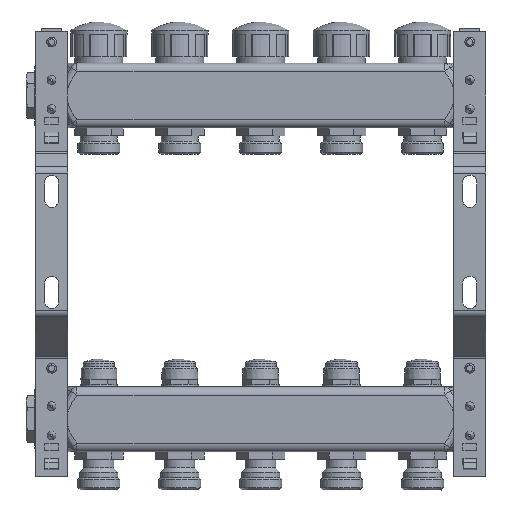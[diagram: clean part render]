
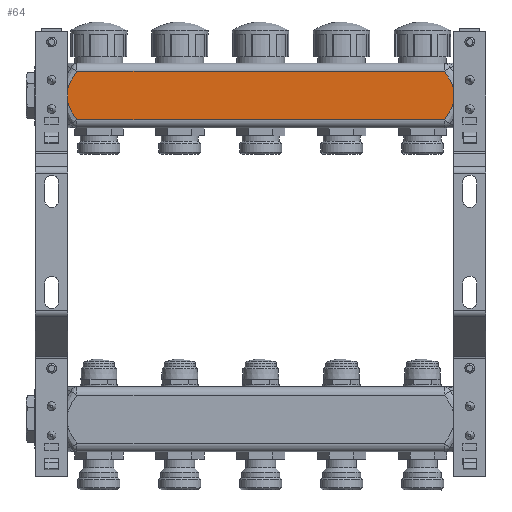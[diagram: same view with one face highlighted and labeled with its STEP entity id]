
A CAD part, front view. The second image highlights one B-rep face of the part: STEP entity #64.
In plain terms, the highlighted planar face has unit normal (0, -1, 0).
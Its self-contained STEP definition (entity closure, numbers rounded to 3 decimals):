
#64=ADVANCED_FACE('',(#1389),#1391,.T.);
#1389=FACE_BOUND('',#1390,.T.);
#1390=EDGE_LOOP('',(#11376,#11377,#11378,#11379,#11380,#11381,#11382,#11383));
#1391=PLANE('',#1392);
#1392=AXIS2_PLACEMENT_3D('',#1393,#1394,#1395);
#1393=CARTESIAN_POINT('',(1.7,19.6,-19.65));
#1394=DIRECTION('',(0.,-1.,0.));
#1395=DIRECTION('',(0.,0.,-1.));
#11376=ORIENTED_EDGE('',*,*,#16557,.F.);
#11377=ORIENTED_EDGE('',*,*,#16556,.T.);
#11378=ORIENTED_EDGE('',*,*,#16558,.T.);
#11379=ORIENTED_EDGE('',*,*,#16559,.T.);
#11380=ORIENTED_EDGE('',*,*,#16560,.T.);
#11381=ORIENTED_EDGE('',*,*,#16561,.T.);
#11382=ORIENTED_EDGE('',*,*,#16562,.F.);
#11383=ORIENTED_EDGE('',*,*,#16551,.T.);
#16551=EDGE_CURVE('',#19261,#19258,#19262,.T.);
#16556=EDGE_CURVE('',#19259,#19267,#19269,.T.);
#16557=EDGE_CURVE('',#19259,#19258,#19270,.T.);
#16558=EDGE_CURVE('',#19267,#19271,#19272,.T.);
#16559=EDGE_CURVE('',#19271,#19273,#19274,.T.);
#16560=EDGE_CURVE('',#19273,#19275,#19276,.F.);
#16561=EDGE_CURVE('',#19275,#19277,#19278,.T.);
#16562=EDGE_CURVE('',#19261,#19277,#19279,.T.);
#19258=VERTEX_POINT('',#25810);
#19259=VERTEX_POINT('',#25811);
#19261=VERTEX_POINT('',#25826);
#19262=B_SPLINE_CURVE_WITH_KNOTS('',3,
(#25827,#25828,#25829,#25830,#25831,#25832,#25833,#25834,#25835,#25836,#25837,#25838),
.UNSPECIFIED.,.F.,.F.,
(4,1,1,1,1,1,1,1,1,4),
(0.,0.148,0.281,0.388,0.488,0.582,
0.677,0.788,0.894,1.),
.UNSPECIFIED.);
#19267=VERTEX_POINT('',#25895);
#19269=B_SPLINE_CURVE_WITH_KNOTS('',3,
(#25900,#25901,#25902,#25903,#25904,#25905,#25906,#25907,#25908,#25909,#25910,#25911),
.UNSPECIFIED.,.F.,.F.,
(4,1,1,1,1,1,1,1,1,4),
(0.,0.148,0.285,0.404,0.507,0.612,
0.722,0.854,0.945,1.),
.UNSPECIFIED.);
#19270=LINE('',#25912,#25913);
#19271=VERTEX_POINT('',#25915);
#19272=LINE('',#25916,#25917);
#19273=VERTEX_POINT('',#25919);
#19274=B_SPLINE_CURVE_WITH_KNOTS('',3,
(#25920,#25921,#25922,#25923,#25924,#25925,#25926,#25927,#25928,#25929,#25930,#25931),
.UNSPECIFIED.,.F.,.F.,
(4,1,1,1,1,1,1,1,1,4),
(0.,0.148,0.281,0.388,0.488,0.582,
0.677,0.788,0.894,1.),
.UNSPECIFIED.);
#19275=VERTEX_POINT('',#25932);
#19276=LINE('',#25933,#25934);
#19277=VERTEX_POINT('',#25936);
#19278=B_SPLINE_CURVE_WITH_KNOTS('',3,
(#25937,#25938,#25939,#25940,#25941,#25942,#25943,#25944,#25945,#25946,#25947,#25948),
.UNSPECIFIED.,.F.,.F.,
(4,1,1,1,1,1,1,1,1,4),
(0.,0.148,0.285,0.404,0.507,0.612,
0.722,0.854,0.945,1.),
.UNSPECIFIED.);
#19279=LINE('',#25949,#25950);
#25810=CARTESIAN_POINT('',(20.,19.6,-35.442));
#25811=CARTESIAN_POINT('',(20.,19.6,-43.858));
#25826=CARTESIAN_POINT('',(25.634,19.6,-24.65));
#25827=CARTESIAN_POINT('',(25.634,19.6,-24.65));
#25828=CARTESIAN_POINT('',(25.276,19.6,-25.157));
#25829=CARTESIAN_POINT('',(24.609,19.6,-26.124));
#25830=CARTESIAN_POINT('',(23.733,19.6,-27.474));
#25831=CARTESIAN_POINT('',(23.003,19.6,-28.67));
#25832=CARTESIAN_POINT('',(22.391,19.6,-29.742));
#25833=CARTESIAN_POINT('',(21.837,19.6,-30.785));
#25834=CARTESIAN_POINT('',(21.305,19.6,-31.879));
#25835=CARTESIAN_POINT('',(20.804,19.6,-33.032));
#25836=CARTESIAN_POINT('',(20.354,19.6,-34.238));
#25837=CARTESIAN_POINT('',(20.109,19.6,-35.041));
#25838=CARTESIAN_POINT('',(20.,19.6,-35.442));
#25895=CARTESIAN_POINT('',(25.634,19.6,-54.65));
#25900=CARTESIAN_POINT('',(20.,19.6,-43.858));
#25901=CARTESIAN_POINT('',(20.152,19.6,-44.421));
#25902=CARTESIAN_POINT('',(20.497,19.6,-45.494));
#25903=CARTESIAN_POINT('',(21.107,19.6,-46.995));
#25904=CARTESIAN_POINT('',(21.728,19.6,-48.305));
#25905=CARTESIAN_POINT('',(22.35,19.6,-49.486));
#25906=CARTESIAN_POINT('',(22.997,19.6,-50.62));
#25907=CARTESIAN_POINT('',(23.744,19.6,-51.844));
#25908=CARTESIAN_POINT('',(24.497,19.6,-53.003));
#25909=CARTESIAN_POINT('',(25.15,19.6,-53.961));
#25910=CARTESIAN_POINT('',(25.501,19.6,-54.462));
#25911=CARTESIAN_POINT('',(25.634,19.6,-54.65));
#25912=CARTESIAN_POINT('',(20.,19.6,-43.858));
#25913=VECTOR('',#25914,1.);
#25914=DIRECTION('',(0.,0.,1.));
#25915=CARTESIAN_POINT('',(252.766,19.6,-54.65));
#25916=CARTESIAN_POINT('',(25.634,19.6,-54.65));
#25917=VECTOR('',#25918,1.);
#25918=DIRECTION('',(1.,0.,0.));
#25919=CARTESIAN_POINT('',(258.4,19.6,-43.858));
#25920=CARTESIAN_POINT('',(252.766,19.6,-54.65));
#25921=CARTESIAN_POINT('',(253.124,19.6,-54.143));
#25922=CARTESIAN_POINT('',(253.791,19.6,-53.176));
#25923=CARTESIAN_POINT('',(254.667,19.6,-51.826));
#25924=CARTESIAN_POINT('',(255.397,19.6,-50.63));
#25925=CARTESIAN_POINT('',(256.009,19.6,-49.558));
#25926=CARTESIAN_POINT('',(256.563,19.6,-48.515));
#25927=CARTESIAN_POINT('',(257.095,19.6,-47.421));
#25928=CARTESIAN_POINT('',(257.596,19.6,-46.268));
#25929=CARTESIAN_POINT('',(258.046,19.6,-45.062));
#25930=CARTESIAN_POINT('',(258.291,19.6,-44.259));
#25931=CARTESIAN_POINT('',(258.4,19.6,-43.858));
#25932=CARTESIAN_POINT('',(258.4,19.6,-35.442));
#25933=CARTESIAN_POINT('',(258.4,19.6,-35.442));
#25934=VECTOR('',#25935,1.);
#25935=DIRECTION('',(0.,0.,-1.));
#25936=CARTESIAN_POINT('',(252.766,19.6,-24.65));
#25937=CARTESIAN_POINT('',(258.4,19.6,-35.442));
#25938=CARTESIAN_POINT('',(258.248,19.6,-34.879));
#25939=CARTESIAN_POINT('',(257.903,19.6,-33.806));
#25940=CARTESIAN_POINT('',(257.293,19.6,-32.305));
#25941=CARTESIAN_POINT('',(256.672,19.6,-30.995));
#25942=CARTESIAN_POINT('',(256.05,19.6,-29.814));
#25943=CARTESIAN_POINT('',(255.403,19.6,-28.68));
#25944=CARTESIAN_POINT('',(254.656,19.6,-27.456));
#25945=CARTESIAN_POINT('',(253.903,19.6,-26.297));
#25946=CARTESIAN_POINT('',(253.25,19.6,-25.339));
#25947=CARTESIAN_POINT('',(252.899,19.6,-24.838));
#25948=CARTESIAN_POINT('',(252.766,19.6,-24.65));
#25949=CARTESIAN_POINT('',(25.634,19.6,-24.65));
#25950=VECTOR('',#25951,1.);
#25951=DIRECTION('',(1.,0.,0.));
